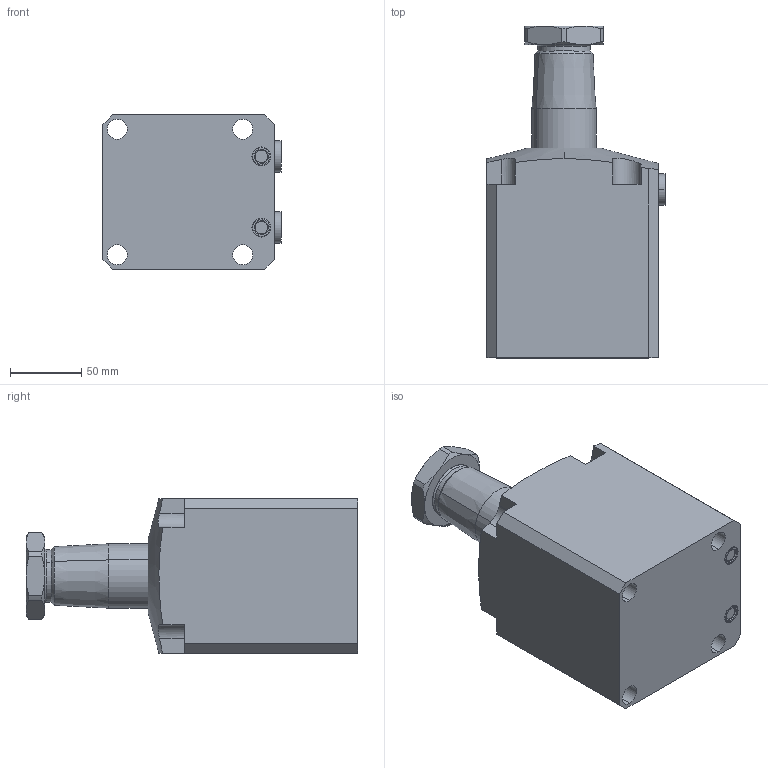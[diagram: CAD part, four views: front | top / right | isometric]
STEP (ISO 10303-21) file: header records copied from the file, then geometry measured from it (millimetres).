
FILE_DESCRIPTION(/* description */ (''),/* implementation_level */ '2;1');
FILE_NAME(/* name */ 'BRC25-RN30.stp',/* time_stamp */ '2025-01-05T09:20:15+08:00',/* author */ (''),/* organization */ (''),/* preprocessor_version */ 'ST-DEVELOPER v16.7',/* originating_system */ 'SIEMENS PLM Software NX 12.0',/* authorisation */ '');
FILE_SCHEMA (('AUTOMOTIVE_DESIGN { 1 0 10303 214 3 1 1 1 }'));
Length unit declared in the file: millimetre
Products named in the file (5): BRC25-RN30-02; BRC25-RN30-03; BRC25-RN30-04; BRC25-RN30-01; BRC25-RN30_stp
Assembly tree (5 placements, depth 2):
  BRC25-RN30_stp
    BRC25-RN30-01
    BRC25-RN30-04  x2
    BRC25-RN30-03
    BRC25-RN30-02
Bounding box: 124.8 x 232.5 x 108 mm (x, y, z)
Volume: 1831409.6 mm3; surface area: 138541 mm2
Topology: 7 solids, 7 shells, 176 faces, 401 edges, 248 vertices
Faces by surface type: plane 68, cylinder 57, cone 34, torus 16, sphere 1
Full cylindrical faces by diameter (mm): 13.15 x2
Entity records: 4661 total; most frequent: CARTESIAN_POINT 958, DIRECTION 778, ORIENTED_EDGE 712, EDGE_CURVE 356, AXIS2_PLACEMENT_3D 313, VERTEX_POINT 222, EDGE_LOOP 180, ADVANCED_FACE 156
